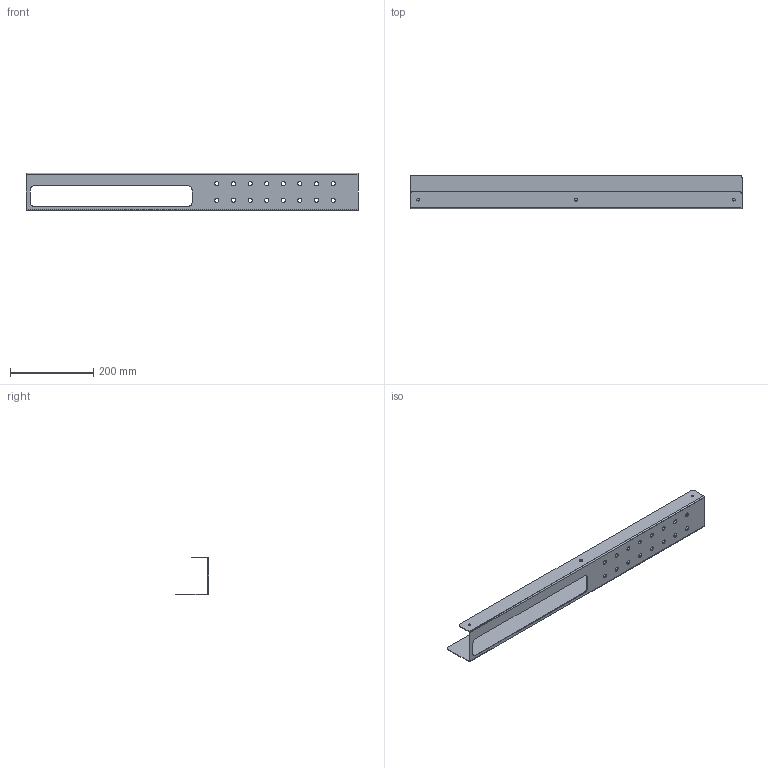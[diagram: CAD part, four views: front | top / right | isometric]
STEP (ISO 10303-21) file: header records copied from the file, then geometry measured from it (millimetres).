
FILE_DESCRIPTION (( 'STEP AP203' ), '1' );
FILE_NAME ('Pó³ka ³azienkowa LAVANDA 80cm prawa.STEP', '2021-10-28T12:35:20', ( '' ), ( '' ), 'SwSTEP 2.0', 'SolidWorks 2020', '' );
FILE_SCHEMA (( 'CONFIG_CONTROL_DESIGN' ));
Length unit declared in the file: millimetre
Products named in the file (1): Pó³ka ³azienkowa LAVANDA 80cm prawa
Bounding box: 800 x 80 x 90 mm (x, y, z)
Volume: 214870.7 mm3; surface area: 291643.8 mm2
Topology: 1 solids, 1 shells, 72 faces, 194 edges, 124 vertices
Faces by surface type: cylinder 50, plane 22
Entity records: 2447 total; most frequent: DIRECTION 440, CARTESIAN_POINT 391, ORIENTED_EDGE 388, EDGE_CURVE 194, AXIS2_PLACEMENT_3D 173, VERTEX_POINT 124, EDGE_LOOP 112, CIRCLE 100
